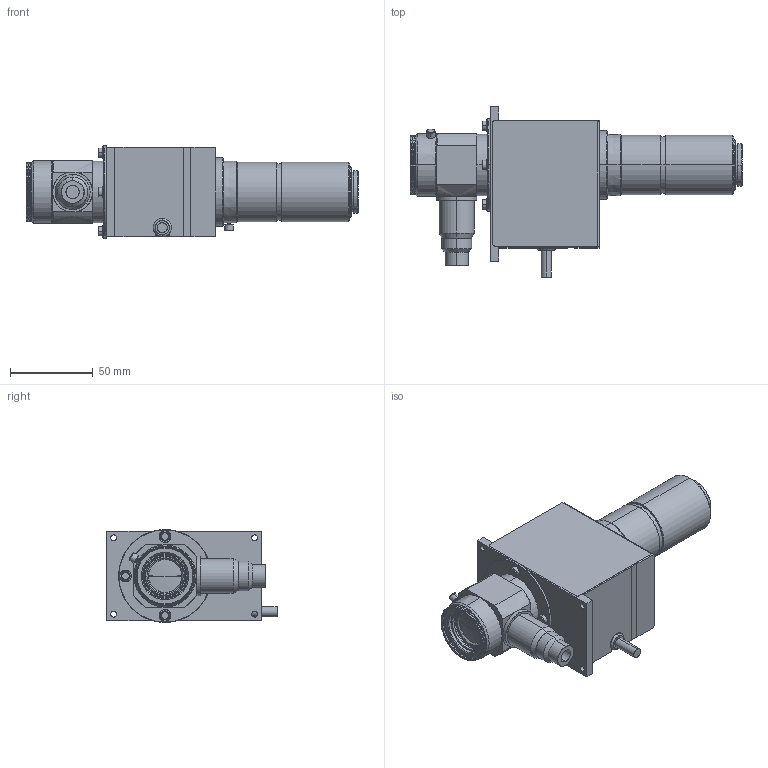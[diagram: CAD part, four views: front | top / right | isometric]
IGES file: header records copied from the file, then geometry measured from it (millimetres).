
Start section: SolidWorks IGES file using analytic representation for surfaces
Global section: file name: C:\Users\tsuji_vst\Documents\【図面】\【1.製品】\04_ズームレンズ\VSZ-0745CO-MR\VSZ-0745CO-MR.IGS,15HSolidWorks; native system: 2015; preprocessor: SolidWorks 2015; author: tsuji_vst; date: 150525.134406; units: millimetre
Bounding box: 200.07 x 102.5 x 56 mm (x, y, z)
Surface area: 112398.8 mm2 (no closed solid volume)
Topology: 0 solids, 0 shells, 455 faces, 8484 edges, 8482 vertices
Faces by surface type: revolution 307, bspline 148
